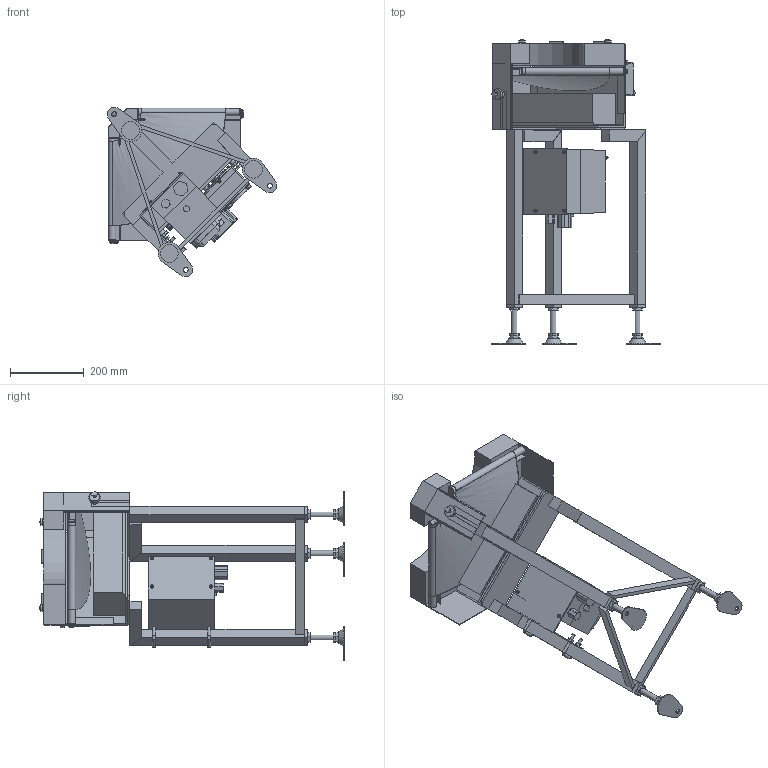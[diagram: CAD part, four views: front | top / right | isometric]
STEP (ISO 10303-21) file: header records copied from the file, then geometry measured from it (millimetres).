
FILE_DESCRIPTION (( 'STEP AP214' ), '1' );
FILE_NAME ('GFBC90-HS150-DC-R.STEP', '2023-04-20T02:50:03', ( '' ), ( '' ), 'SwSTEP 2.0', 'SolidWorks 2017', '' );
FILE_SCHEMA (( 'AUTOMOTIVE_DESIGN' ));
Length unit declared in the file: millimetre
Products named in the file (1): GFBC90-HS150-DC-R
Bounding box: 461.08 x 827.92 x 461.08 mm (x, y, z)
Volume: 14482041.7 mm3; surface area: 2039596.2 mm2
Topology: 63 solids, 64 shells, 1211 faces, 2770 edges, 1783 vertices
Faces by surface type: plane 863, cylinder 252, cone 48, bspline 34, torus 12, sphere 2
Full cylindrical faces by diameter (mm): 4 x4, 4.2 x2, 4.5 x1, 5 x4, 5.9 x4, 6 x13, 7 x1, 7.6 x4, 8 x23, 9 x12, 9.2 x1, 10 x7, 12 x2, 12.2 x2, 12.5 x7, 13 x9, 15 x4, 15.4 x1, 16 x9, 17 x2, 18 x2, 18.4 x1, 20 x7, 21 x1, 24 x1, 25 x1, 30 x6, 51 x1
Entity records: 53893 total; most frequent: CARTESIAN_POINT 13411, DIRECTION 5351, ORIENTED_EDGE 5098, EDGE_CURVE 2549, AXIS2_PLACEMENT_3D 1791, LINE 1769, VECTOR 1769, VERTEX_POINT 1735
